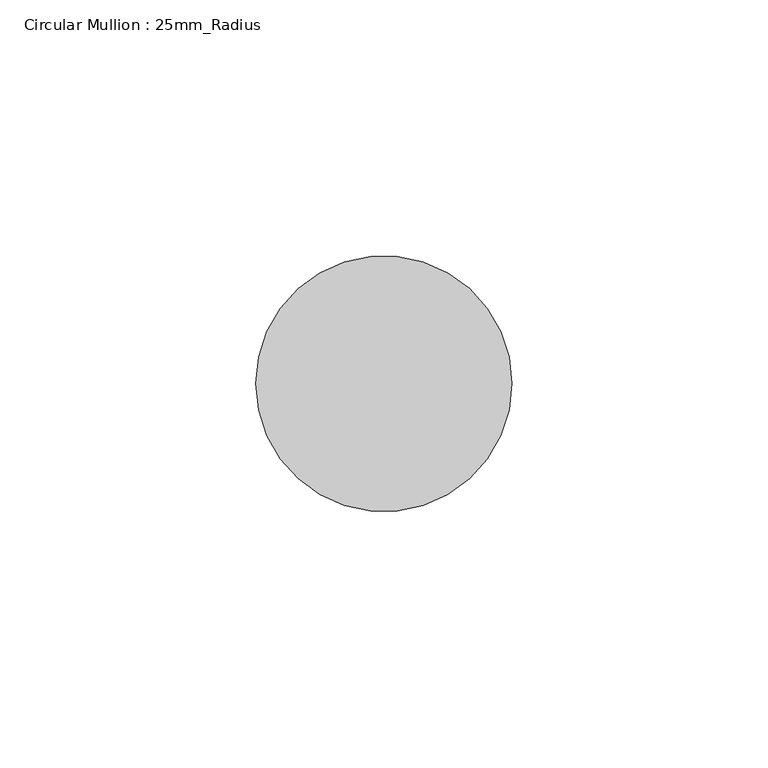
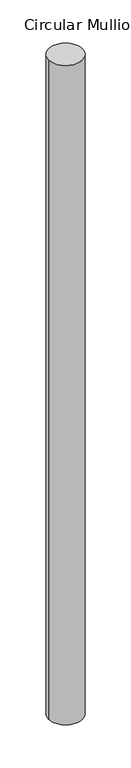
"""IFC4 building model written with IfcOpenShell, lengths in millimetres: member geometry, Circular Mullion : 25mm_Radius."""

from ifc_helpers import new_model, si_unit, point, frame, frame_2d, origin, place, context, project, spatial, circle_curve, trimmed, segment, composite_curve, outline, extrude, source, transform, mapped, element, save


def circular_mullion_25mm_radius_96ed82c5(model_context):
    return source(origin(), model_context, "Body", "SweptSolid", [
        extrude(outline(composite_curve([segment(trimmed(circle_curve(frame_2d((-25.0, 0.0)), 25.0), [point((0.0, 0.0))], [point((-50.0, 0.0))], False, "CARTESIAN"), True, "CONTINUOUS"), segment(trimmed(circle_curve(frame_2d((-25.0, 0.0)), 25.0), [point((-50.0, 0.0))], [point((0.0, 0.0))], False, "CARTESIAN"), True, "CONTINUOUS")], self_intersect=False)), frame((0.0, 0.0, -1030.0), z_axis=(0.0, 0.0, 1.0), x_axis=(1.0, 0.0, 0.0)), (0.0, 0.0, 1.0), 1030.0),
    ])


if __name__ == "__main__":
    model = new_model("IFC4")
    model_context = context("Model", 3, world=origin())
    ifc_project = project(units=[si_unit("LENGTHUNIT", "METRE", prefix="MILLI")], contexts=[model_context])
    site = spatial("IfcSite", under=ifc_project)
    building = spatial("IfcBuilding", under=site)
    placement = place(None, origin())
    circular_mullion_25mm_radius_shape = circular_mullion_25mm_radius_96ed82c5(model_context)
    element("IfcMember", 1, ObjectType="Circular Mullion : 25mm_Radius", at=placement, inside=building, context=model_context, shape_type="MappedRepresentation", body=[
        mapped(circular_mullion_25mm_radius_shape, transform((0.0, 0.0, 0.0), x_axis=(1.0, 0.0, 0.0), y_axis=(0.0, 1.0, 0.0), z_axis=(0.0, 0.0, 1.0))),
    ])
    save(model, "model.ifc")
